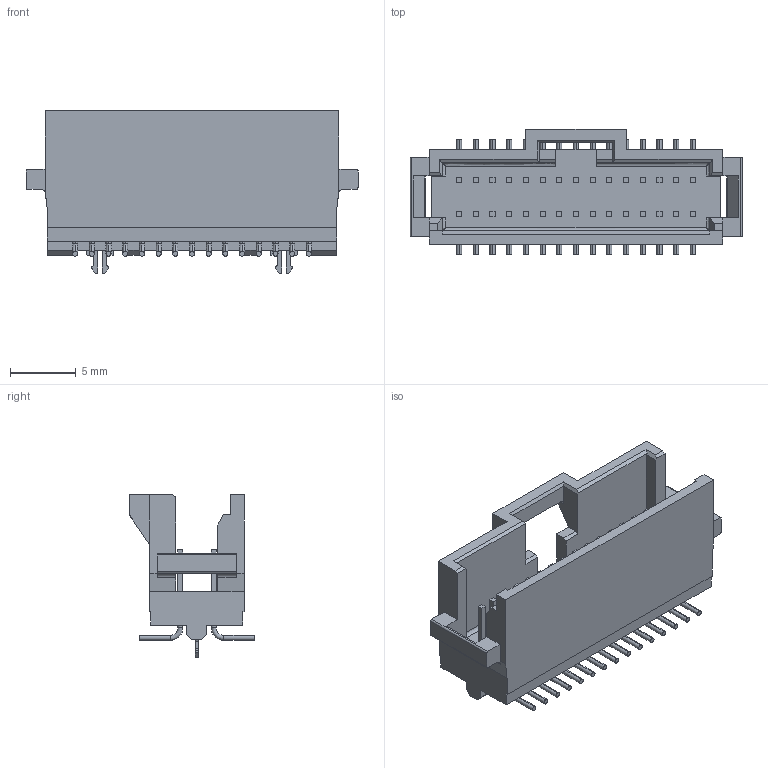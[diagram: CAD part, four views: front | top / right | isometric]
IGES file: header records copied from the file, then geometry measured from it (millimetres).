
Start section:  PTC IGES file: c-5-104549-5-w-3d.igs
Global section: file name: c-5-104549-5-w-3d.igs; native system: Creo Parametric by PTC Inc.; preprocessor: 2015200; author: workeradm; organization: Unknown; units: millimetre
Bounding box: 25.25 x 9.53 x 12.34 mm (x, y, z)
Surface area: 1576.8 mm2 (no closed solid volume)
Topology: 0 solids, 0 shells, 527 faces, 2514 edges, 2514 vertices
Faces by surface type: bspline 312, revolution 215
